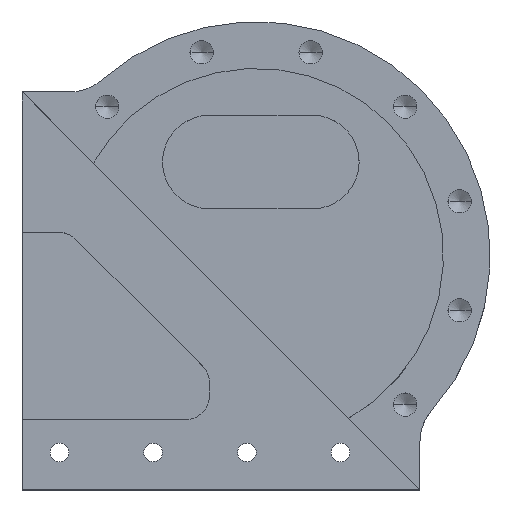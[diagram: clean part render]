
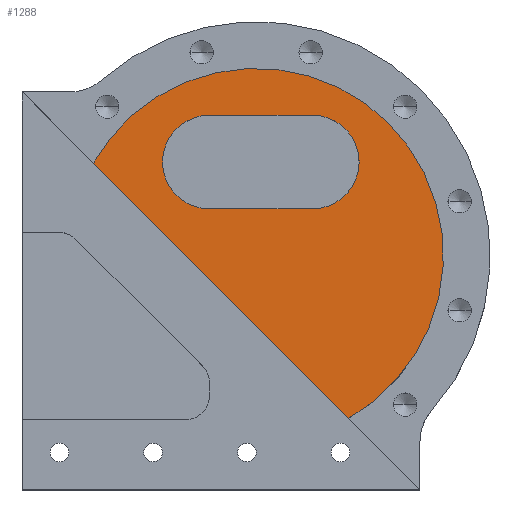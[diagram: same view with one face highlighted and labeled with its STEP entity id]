
A CAD part, top view. The second image highlights one B-rep face of the part: STEP entity #1288.
In plain terms, the highlighted planar face has unit normal (0, 0, 1).
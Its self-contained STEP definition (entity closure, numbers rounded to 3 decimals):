
#197=EDGE_CURVE('',#484,#485,#486,.T.);
#203=EDGE_CURVE('',#485,#492,#493,.T.);
#207=EDGE_CURVE('',#492,#497,#498,.T.);
#211=EDGE_CURVE('',#497,#484,#502,.T.);
#213=EDGE_CURVE('',#504,#505,#506,.T.);
#215=EDGE_CURVE('',#505,#504,#508,.T.);
#484=VERTEX_POINT('',#864);
#485=VERTEX_POINT('',#865);
#486=LINE('',#866,#867);
#492=VERTEX_POINT('',#878);
#493=CIRCLE('',#879,10.0);
#497=VERTEX_POINT('',#886);
#498=LINE('',#887,#888);
#502=CIRCLE('',#897,10.);
#504=VERTEX_POINT('',#900);
#505=VERTEX_POINT('',#901);
#506=CIRCLE('',#902,39.998);
#508=LINE('',#905,#906);
#864=CARTESIAN_POINT('',(45.,65.,0.));
#865=CARTESIAN_POINT('',(67.,65.,0.0));
#866=CARTESIAN_POINT('',(45.,65.,0.0));
#867=VECTOR('',#1374,1.0);
#878=CARTESIAN_POINT('',(67.,85.,0.0));
#879=AXIS2_PLACEMENT_3D('',#1376,#1377,#1378);
#886=CARTESIAN_POINT('',(45.,85.,0.));
#887=CARTESIAN_POINT('',(45.,85.,0.0));
#888=VECTOR('',#1380,1.0);
#897=AXIS2_PLACEMENT_3D('',#1381,#1382,#1383);
#900=CARTESIAN_POINT('',(74.769,20.231,0.0));
#901=CARTESIAN_POINT('',(20.229,74.771,0.0));
#902=AXIS2_PLACEMENT_3D('',#1384,#1385,#1386);
#905=CARTESIAN_POINT('',(20.229,74.771,0.0));
#906=VECTOR('',#1387,1.0);
#1288=ADVANCED_FACE('',(#1579,#1580),#1581,.T.);
#1374=DIRECTION('',(1.0,0.0,0.0));
#1376=CARTESIAN_POINT('',(67.,75.,0.0));
#1377=DIRECTION('',(0.0,0.0,1.0));
#1378=DIRECTION('',(1.0,0.0,0.0));
#1380=DIRECTION('',(-1.0,0.0,0.0));
#1381=CARTESIAN_POINT('',(45.,75.,0.0));
#1382=DIRECTION('',(0.0,0.0,1.0));
#1383=DIRECTION('',(1.0,0.0,0.0));
#1384=CARTESIAN_POINT('',(55.001,55.003,0.0));
#1385=DIRECTION('',(0.0,0.0,1.0));
#1386=DIRECTION('',(-1.0,0.0,0.0));
#1387=DIRECTION('',(0.707,-0.707,0.0));
#1579=FACE_BOUND('',#1712,.T.);
#1580=FACE_OUTER_BOUND('',#1713,.T.);
#1581=PLANE('',#1714);
#1712=EDGE_LOOP('',(#1898,#1899,#1900,#1901));
#1713=EDGE_LOOP('',(#1902,#1903));
#1714=AXIS2_PLACEMENT_3D('',#1904,#1905,#1906);
#1898=ORIENTED_EDGE('',*,*,#207,.F.);
#1899=ORIENTED_EDGE('',*,*,#203,.F.);
#1900=ORIENTED_EDGE('',*,*,#197,.F.);
#1901=ORIENTED_EDGE('',*,*,#211,.F.);
#1902=ORIENTED_EDGE('',*,*,#213,.T.);
#1903=ORIENTED_EDGE('',*,*,#215,.T.);
#1904=CARTESIAN_POINT('',(20.229,20.231,0.0));
#1905=DIRECTION('',(0.0,0.0,1.0));
#1906=DIRECTION('',(1.0,0.0,0.0));
